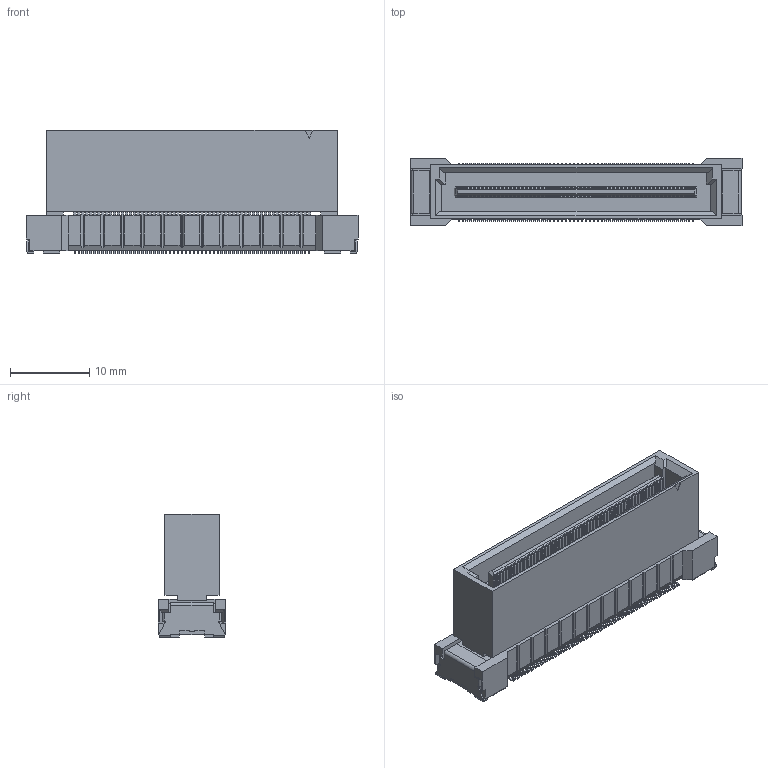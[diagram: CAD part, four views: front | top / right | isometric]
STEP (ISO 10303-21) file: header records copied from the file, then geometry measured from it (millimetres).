
FILE_DESCRIPTION(('Creo Elements/Direct Modeling STEP Export'),'2;1');
FILE_NAME('P3E104_DT00-120FS-10-T.stp','2022-02-25T17:36:31',(''),(''),'Creo Elements/Direct Modeling STEP processor for AP214 (Solid Model)','Creo Elements/Direct Modeling 20.4A 18-Oct-2021 (C) Parametric Technology GmbH','');
FILE_SCHEMA(('AUTOMOTIVE_DESIGN { 1 0 10303 214 1 1 1 1 }'));
Products named in the file (2): P3E104_DT00-120FS-10-T
Assembly tree (1 placements, depth 2):
  P3E104_DT00-120FS-10-T
    P3E104_DT00-120FS-10-T
Bounding box: 41.8 x 8.5 x 15.5 mm (x, y, z)
Volume: 3330.9 mm3; surface area: 3257.8 mm2
Topology: 1 solids, 1 shells, 3349 faces, 9405 edges, 6178 vertices
Faces by surface type: plane 3083, cylinder 266
Entity records: 104174 total; most frequent: ORIENTED_EDGE 18810, CARTESIAN_POINT 18432, DIRECTION 16011, EDGE_CURVE 9405, VECTOR 8497, LINE 8497, VERTEX_POINT 6178, AXIS2_PLACEMENT_3D 3757
